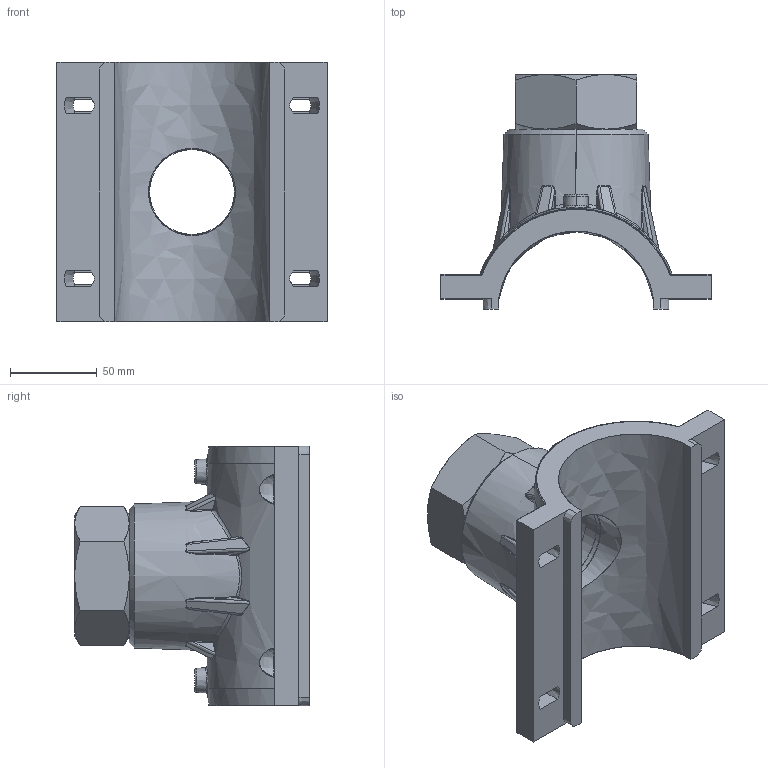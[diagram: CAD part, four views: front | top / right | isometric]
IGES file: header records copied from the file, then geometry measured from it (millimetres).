
Start section:  PTC IGES file: vam-rg_d090_2_01.igs
Global section: file name: vam-rg_d090_2_01.igs; native system: Pro/ENGINEER by Parametric Technology Corporation; preprocessor: 2011490; author: mtunjic; organization: Unknown; date: 20130909.105931; units: millimetre
Bounding box: 156 x 135.5 x 150 mm (x, y, z)
Surface area: 110832.7 mm2 (no closed solid volume)
Topology: 0 solids, 0 shells, 447 faces, 2238 edges, 2238 vertices
Faces by surface type: bspline 447
